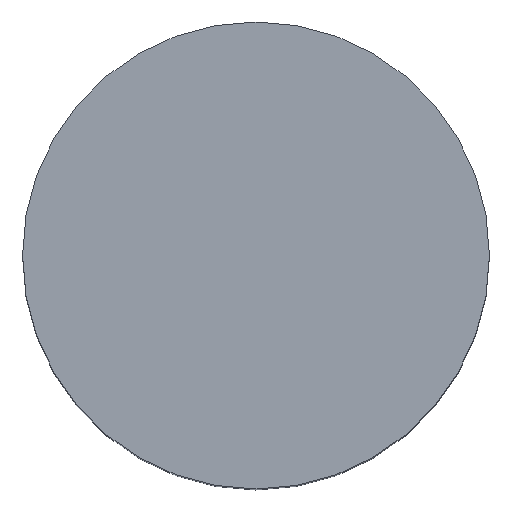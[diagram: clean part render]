
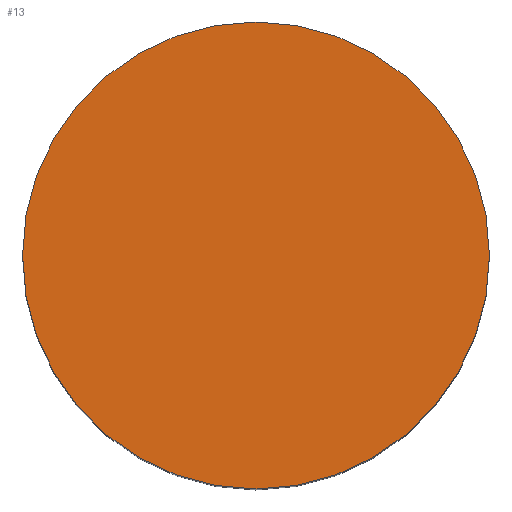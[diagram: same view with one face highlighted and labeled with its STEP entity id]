
A CAD part, top view. The second image highlights one B-rep face of the part: STEP entity #13.
In plain terms, the highlighted planar face has unit normal (0, 0, 1).
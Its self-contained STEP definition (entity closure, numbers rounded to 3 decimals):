
#7 = DIRECTION ( 'NONE',  ( 0., 0., 1. ) ) ;
#13 = ADVANCED_FACE ( 'NONE', ( #113 ), #393, .F. ) ;
#20 = EDGE_CURVE ( 'NONE', #45, #138, #153, .T. ) ;
#40 = CIRCLE ( 'NONE', #81, 4. ) ;
#45 = VERTEX_POINT ( 'NONE', #297 ) ;
#48 = CARTESIAN_POINT ( 'NONE',  ( -4., 0., 0. ) ) ;
#81 = AXIS2_PLACEMENT_3D ( 'NONE', #109, #7, #382 ) ;
#109 = CARTESIAN_POINT ( 'NONE',  ( 0., 0., 0. ) ) ;
#113 = FACE_OUTER_BOUND ( 'NONE', #392, .T. ) ;
#138 = VERTEX_POINT ( 'NONE', #48 ) ;
#153 = CIRCLE ( 'NONE', #199, 4. ) ;
#199 = AXIS2_PLACEMENT_3D ( 'NONE', #326, #325, #322 ) ;
#226 = ORIENTED_EDGE ( 'NONE', *, *, #20, .T. ) ;
#268 = AXIS2_PLACEMENT_3D ( 'NONE', #294, #279, #272 ) ;
#272 = DIRECTION ( 'NONE',  ( -1., 0., 0. ) ) ;
#279 = DIRECTION ( 'NONE',  ( 0., 0., -1. ) ) ;
#294 = CARTESIAN_POINT ( 'NONE',  ( 4., 0., 0. ) ) ;
#297 = CARTESIAN_POINT ( 'NONE',  ( 4., 0., 0. ) ) ;
#298 = ORIENTED_EDGE ( 'NONE', *, *, #313, .T. ) ;
#313 = EDGE_CURVE ( 'NONE', #138, #45, #40, .T. ) ;
#322 = DIRECTION ( 'NONE',  ( 1., 0., 0. ) ) ;
#325 = DIRECTION ( 'NONE',  ( 0., 0., 1. ) ) ;
#326 = CARTESIAN_POINT ( 'NONE',  ( 0., 0., 0. ) ) ;
#382 = DIRECTION ( 'NONE',  ( 1., 0., 0. ) ) ;
#392 = EDGE_LOOP ( 'NONE', ( #226, #298 ) ) ;
#393 = PLANE ( 'NONE',  #268 ) ;
